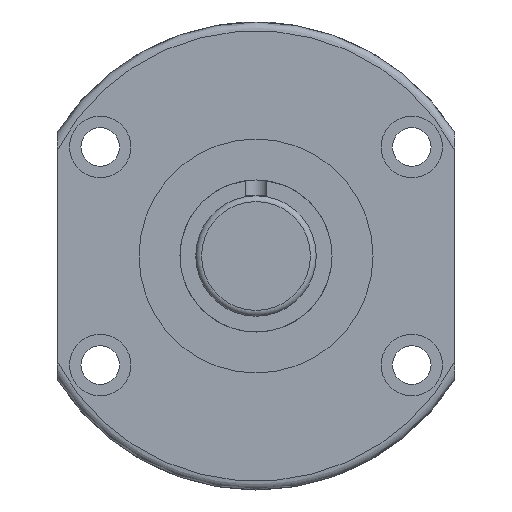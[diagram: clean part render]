
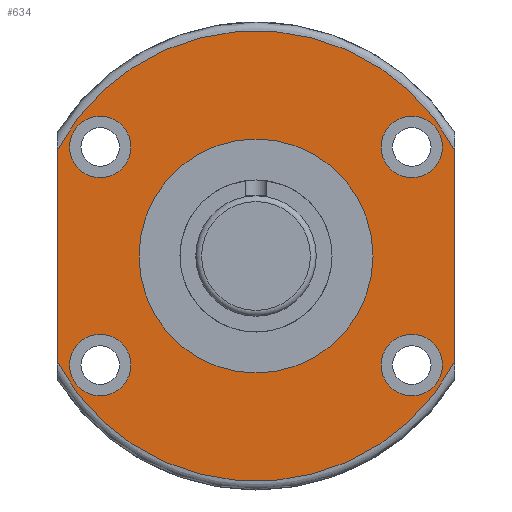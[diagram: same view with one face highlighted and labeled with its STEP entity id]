
A CAD part, left-side view. The second image highlights one B-rep face of the part: STEP entity #634.
In plain terms, the highlighted planar face has unit normal (-1, 0, 0).
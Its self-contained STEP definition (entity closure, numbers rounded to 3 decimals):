
#70=CIRCLE('',#680,5.25);
#73=CIRCLE('',#685,5.25);
#76=CIRCLE('',#690,5.25);
#79=CIRCLE('',#695,5.25);
#85=CIRCLE('',#707,20.);
#86=CIRCLE('',#709,38.5);
#98=CIRCLE('',#731,38.5);
#205=ORIENTED_EDGE('',*,*,#292,.T.);
#206=ORIENTED_EDGE('',*,*,#298,.T.);
#207=ORIENTED_EDGE('',*,*,#308,.T.);
#208=ORIENTED_EDGE('',*,*,#279,.T.);
#209=ORIENTED_EDGE('',*,*,#320,.T.);
#210=ORIENTED_EDGE('',*,*,#287,.T.);
#211=ORIENTED_EDGE('',*,*,#307,.F.);
#212=ORIENTED_EDGE('',*,*,#301,.T.);
#213=ORIENTED_EDGE('',*,*,#295,.T.);
#279=EDGE_CURVE('',#354,#353,#401,.T.);
#287=EDGE_CURVE('',#360,#359,#404,.T.);
#292=EDGE_CURVE('',#364,#364,#70,.T.);
#295=EDGE_CURVE('',#367,#367,#73,.T.);
#298=EDGE_CURVE('',#370,#370,#76,.T.);
#301=EDGE_CURVE('',#373,#373,#79,.T.);
#307=EDGE_CURVE('',#379,#379,#85,.T.);
#308=EDGE_CURVE('',#359,#354,#86,.T.);
#320=EDGE_CURVE('',#353,#360,#98,.T.);
#353=VERTEX_POINT('',#1028);
#354=VERTEX_POINT('',#1030);
#359=VERTEX_POINT('',#1073);
#360=VERTEX_POINT('',#1075);
#364=VERTEX_POINT('',#1092);
#367=VERTEX_POINT('',#1100);
#370=VERTEX_POINT('',#1108);
#373=VERTEX_POINT('',#1116);
#379=VERTEX_POINT('',#1134);
#401=LINE('',#1029,#413);
#404=LINE('',#1074,#416);
#413=VECTOR('',#787,1000.);
#416=VECTOR('',#792,1000.);
#479=EDGE_LOOP('',(#205));
#480=EDGE_LOOP('',(#206));
#481=EDGE_LOOP('',(#207,#208,#209,#210));
#482=EDGE_LOOP('',(#211));
#483=EDGE_LOOP('',(#212));
#484=EDGE_LOOP('',(#213));
#563=FACE_BOUND('',#479,.T.);
#564=FACE_BOUND('',#480,.T.);
#565=FACE_BOUND('',#481,.T.);
#566=FACE_BOUND('',#482,.T.);
#567=FACE_BOUND('',#483,.T.);
#568=FACE_BOUND('',#484,.T.);
#598=PLANE('',#730);
#634=ADVANCED_FACE('',(#563,#564,#565,#566,#567,#568),#598,.F.);
#680=AXIS2_PLACEMENT_3D('',#1091,#802,#803);
#685=AXIS2_PLACEMENT_3D('',#1099,#812,#813);
#690=AXIS2_PLACEMENT_3D('',#1107,#822,#823);
#695=AXIS2_PLACEMENT_3D('',#1115,#832,#833);
#707=AXIS2_PLACEMENT_3D('',#1133,#856,#857);
#709=AXIS2_PLACEMENT_3D('',#1136,#860,#861);
#730=AXIS2_PLACEMENT_3D('',#1164,#902,#903);
#731=AXIS2_PLACEMENT_3D('',#1165,#904,#905);
#787=DIRECTION('',(0.,0.,-1.));
#792=DIRECTION('',(0.,0.,1.));
#802=DIRECTION('',(1.,0.,0.));
#803=DIRECTION('',(0.,0.,-1.));
#812=DIRECTION('',(1.,0.,0.));
#813=DIRECTION('',(0.,0.,-1.));
#822=DIRECTION('',(1.,0.,0.));
#823=DIRECTION('',(0.,0.,-1.));
#832=DIRECTION('',(1.,0.,0.));
#833=DIRECTION('',(0.,0.,-1.));
#856=DIRECTION('',(-1.,0.,0.));
#857=DIRECTION('',(0.,-1.,0.));
#860=DIRECTION('',(-1.,0.,0.));
#861=DIRECTION('',(0.,-1.,0.));
#902=DIRECTION('',(1.,0.,0.));
#903=DIRECTION('',(0.,1.,0.));
#904=DIRECTION('',(-1.,0.,0.));
#905=DIRECTION('',(0.,-1.,0.));
#1028=CARTESIAN_POINT('',(147.535,121.895,-18.062));
#1029=CARTESIAN_POINT('',(147.535,121.895,0.));
#1030=CARTESIAN_POINT('',(147.535,121.895,18.062));
#1073=CARTESIAN_POINT('',(147.535,53.895,18.062));
#1074=CARTESIAN_POINT('',(147.535,53.895,0.));
#1075=CARTESIAN_POINT('',(147.535,53.895,-18.062));
#1091=CARTESIAN_POINT('',(147.535,61.272,18.641));
#1092=CARTESIAN_POINT('',(147.535,61.272,13.391));
#1099=CARTESIAN_POINT('',(147.535,114.517,18.641));
#1100=CARTESIAN_POINT('',(147.535,114.517,13.391));
#1107=CARTESIAN_POINT('',(147.535,61.272,-18.641));
#1108=CARTESIAN_POINT('',(147.535,61.272,-23.891));
#1115=CARTESIAN_POINT('',(147.535,114.517,-18.641));
#1116=CARTESIAN_POINT('',(147.535,114.517,-23.891));
#1133=CARTESIAN_POINT('',(147.535,87.895,0.));
#1134=CARTESIAN_POINT('',(147.535,67.895,0.));
#1136=CARTESIAN_POINT('',(147.535,87.895,0.));
#1164=CARTESIAN_POINT('',(147.535,126.395,0.));
#1165=CARTESIAN_POINT('',(147.535,87.895,0.));
